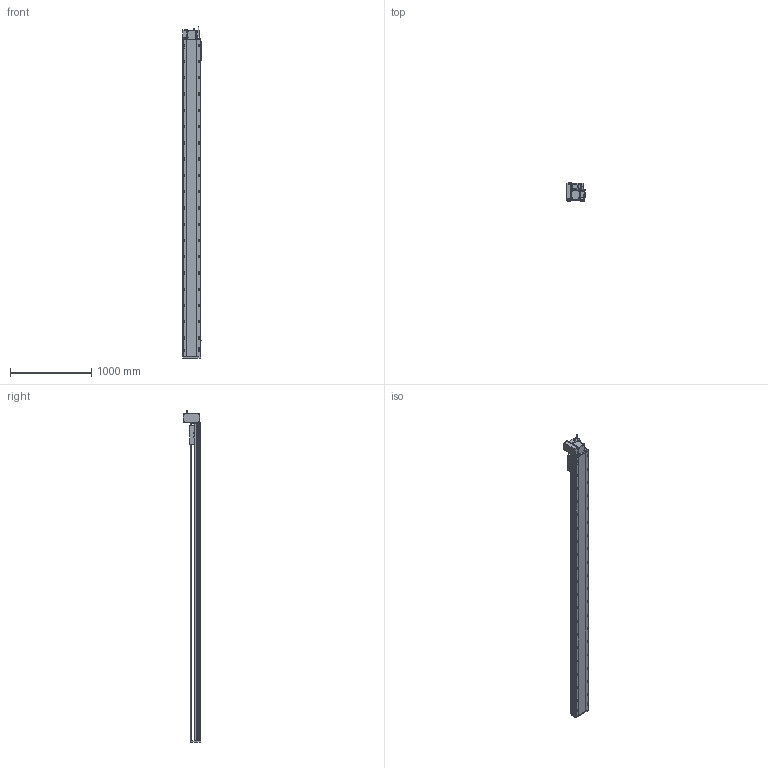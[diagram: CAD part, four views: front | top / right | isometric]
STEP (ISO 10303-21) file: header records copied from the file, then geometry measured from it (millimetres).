
FILE_DESCRIPTION (( 'STEP AP214' ), '1' );
FILE_NAME ('RTB22S-XX-3550-LW-M75-C4.STEP', '2025-12-12T07:08:40', ( '' ), ( '' ), 'SwSTEP 2.0', 'SolidWorks 2018', '' );
FILE_SCHEMA (( 'AUTOMOTIVE_DESIGN' ));
Length unit declared in the file: millimetre
Products named in the file (14): RTB22S-GY-007奻裔^RTB22S-XX-XX-LW-M75-C4; RTB22S-GY-017P^RTB22S-LW-々湍釱蚾饜_RTB22S-XX-XX-LW-M75-C4; RTB22S-LW-々湍釱蚾饜^RTB22S-XX-XX-LW-M75-C4; RTB22S-L-004賑釱^RTB22S-XX-XX-LW-M75-C4; OMRON EE-SX672 传感器^RTB22S-XX-XX-LW-M75-C4; RTB22S-XX-3550-LW-M75-C4; RTB22S-GY-018P^RTB22S-LW-々湍釱蚾饜_RTB22S-XX-XX-LW-M75-C4; RTB22S-GY-005P^RTB22S-LW-々湍釱蚾饜_RTB22S-XX-XX-LW-M75-C4; RTH22-GY-013外置感应片^RTB22S-XX-XX-LW-M75-C4; RTB22S-GY-001耜裔^RTB22S-XX-XX-LW-M75-C4; 750W萇儂^RTB22S-XX-XX-LW-M75-C4; RTB22S-GY-008-M75--萇儂啣^RTB22S-LW-々湍釱蚾饜_RTB22S-XX-XX-LW-M75-C4; RTB22S-L-011菁釱^RTB22S-XX-XX-LW-M75-C4; RTB22S-GY-014--々湍釱^RTB22S-LW-々湍釱蚾饜_RTB22S-XX-XX-LW-M75-C4
Assembly tree (16 placements, depth 3):
  RTB22S-XX-3550-LW-M75-C4
    RTB22S-L-011菁釱^RTB22S-XX-XX-LW-M75-C4
    RTB22S-GY-001耜裔^RTB22S-XX-XX-LW-M75-C4
    750W萇儂^RTB22S-XX-XX-LW-M75-C4
    RTB22S-GY-007奻裔^RTB22S-XX-XX-LW-M75-C4
    RTB22S-L-004賑釱^RTB22S-XX-XX-LW-M75-C4
    RTH22-GY-013外置感应片^RTB22S-XX-XX-LW-M75-C4
    OMRON EE-SX672 传感器^RTB22S-XX-XX-LW-M75-C4  x3
    RTB22S-LW-々湍釱蚾饜^RTB22S-XX-XX-LW-M75-C4
      RTB22S-GY-014--々湍釱^RTB22S-LW-々湍釱蚾饜_RTB22S-XX-XX-LW-M75-C4
      RTB22S-GY-017P^RTB22S-LW-々湍釱蚾饜_RTB22S-XX-XX-LW-M75-C4  x2
      RTB22S-GY-005P^RTB22S-LW-々湍釱蚾饜_RTB22S-XX-XX-LW-M75-C4
      RTB22S-GY-008-M75--萇儂啣^RTB22S-LW-々湍釱蚾饜_RTB22S-XX-XX-LW-M75-C4
      RTB22S-GY-018P^RTB22S-LW-々湍釱蚾饜_RTB22S-XX-XX-LW-M75-C4
Bounding box: 238.5 x 215.5 x 4082.2 mm (x, y, z)
Volume: 50997572.5 mm3; surface area: 5186788.9 mm2
Topology: 15 solids, 15 shells, 2199 faces, 5986 edges, 3812 vertices
Faces by surface type: plane 939, cylinder 766, bspline 296, cone 186, sphere 8, torus 4
Entity records: 60664 total; most frequent: CARTESIAN_POINT 16948, ORIENTED_EDGE 8664, DIRECTION 8546, EDGE_CURVE 4332, AXIS2_PLACEMENT_3D 3094, VERTEX_POINT 2816, LINE 2358, VECTOR 2358
